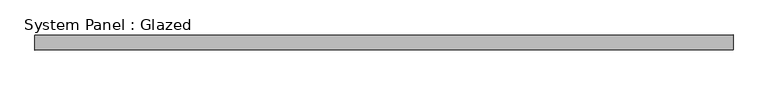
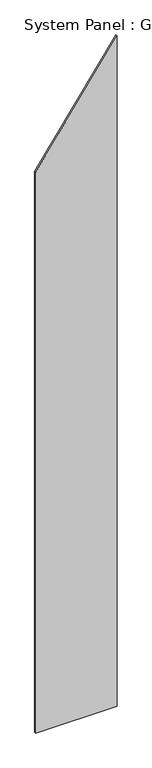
"""IFC4 building model written with IfcOpenShell, lengths in millimetres: plate geometry, System Panel : Glazed."""

from ifc_helpers import new_model, si_unit, frame, origin, place, context, project, spatial, polyline, outline, extrude, source, transform, mapped, element, save


def system_panel_glazed_b040cd96(model_context):
    return source(origin(), model_context, "Body", "SweptSolid", [
        extrude(outline(polyline([(0.0, -583.8214844), (0.0, 583.8214844), (10150.0, 583.8214844), (8494.1962433, -583.8214844), (0.0, -583.8214844)])), frame((0.0, -12.5, 0.0), z_axis=(0.0, 1.0, 0.0), x_axis=(0.0, 0.0, 1.0)), (0.0, 0.0, 1.0), 25.0),
    ])


if __name__ == "__main__":
    model = new_model("IFC4")
    model_context = context("Model", 3, world=origin())
    ifc_project = project(units=[si_unit("LENGTHUNIT", "METRE", prefix="MILLI")], contexts=[model_context])
    site = spatial("IfcSite", under=ifc_project)
    building = spatial("IfcBuilding", under=site)
    placement = place(None, origin())
    system_panel_glazed_shape = system_panel_glazed_b040cd96(model_context)
    element("IfcPlate", 1, ObjectType="System Panel : Glazed", at=placement, inside=building, context=model_context, shape_type="MappedRepresentation", body=[
        mapped(system_panel_glazed_shape, transform((0.0, 0.0, 0.0), x_axis=(1.0, 0.0, 0.0), y_axis=(0.0, 1.0, 0.0), z_axis=(0.0, 0.0, 1.0))),
    ])
    save(model, "model.ifc")
